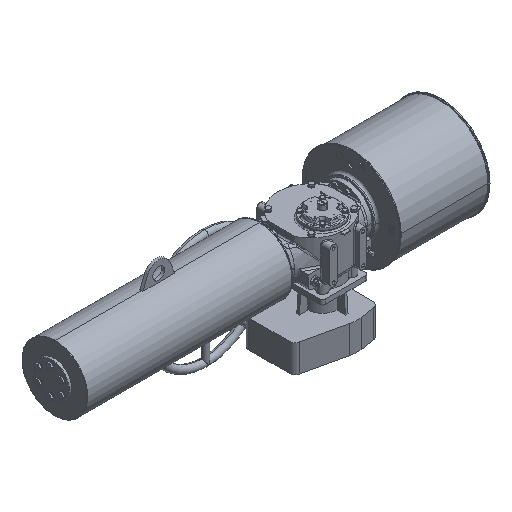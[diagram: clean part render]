
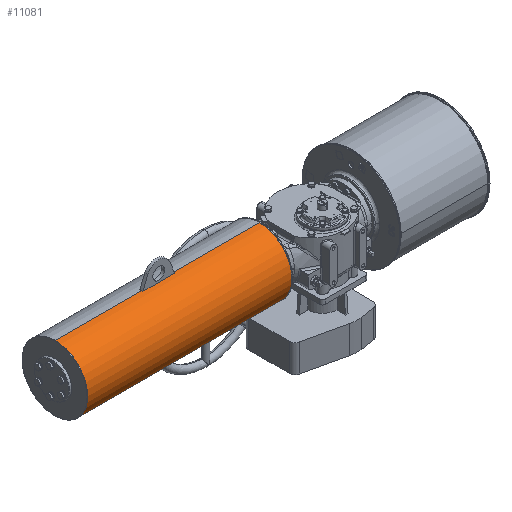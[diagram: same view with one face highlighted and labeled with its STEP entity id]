
A CAD part, isometric view. The second image highlights one B-rep face of the part: STEP entity #11081.
In plain terms, the highlighted cylindrical face has radius 109.5 mm (diameter 219 mm), a partial arc.
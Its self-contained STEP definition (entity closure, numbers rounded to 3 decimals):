
#784 = DIRECTION ( 'NONE',  ( 0., 0., -1. ) ) ;
#865 = CARTESIAN_POINT ( 'NONE',  ( -153., -87., 57.5 ) ) ;
#1980 = CARTESIAN_POINT ( 'NONE',  ( -153., 22.5, -52. ) ) ;
#3258 = ORIENTED_EDGE ( 'NONE', *, *, #36040, .T. ) ;
#4721 = VERTEX_POINT ( 'NONE', #90279 ) ;
#5178 = AXIS2_PLACEMENT_3D ( 'NONE', #90155, #5214, #48638 ) ;
#5214 = DIRECTION ( 'NONE',  ( 1., 0., 0. ) ) ;
#5615 = DIRECTION ( 'NONE',  ( 0., 0., -1. ) ) ;
#6520 = CARTESIAN_POINT ( 'NONE',  ( -839.5, 22.5, 57.5 ) ) ;
#7613 = AXIS2_PLACEMENT_3D ( 'NONE', #31940, #68389, #69311 ) ;
#7728 = DIRECTION ( 'NONE',  ( 0., -1., 0. ) ) ;
#8426 = VERTEX_POINT ( 'NONE', #63504 ) ;
#10912 = CARTESIAN_POINT ( 'NONE',  ( -843., 22.5, -52. ) ) ;
#11081 = ADVANCED_FACE ( 'NONE', ( #76715 ), #28219, .T. ) ;
#11291 = CARTESIAN_POINT ( 'NONE',  ( -839.5, 22.5, -52. ) ) ;
#12360 = EDGE_CURVE ( 'NONE', #28159, #90328, #49082, .T. ) ;
#13756 = AXIS2_PLACEMENT_3D ( 'NONE', #87856, #17669, #19929 ) ;
#15835 = ORIENTED_EDGE ( 'NONE', *, *, #45216, .T. ) ;
#15928 = DIRECTION ( 'NONE',  ( 1., 0., 0. ) ) ;
#17494 = AXIS2_PLACEMENT_3D ( 'NONE', #6520, #27760, #5615 ) ;
#17669 = DIRECTION ( 'NONE',  ( -1., 0., 0. ) ) ;
#17803 = CIRCLE ( 'NONE', #62056, 109.5 ) ;
#18516 = EDGE_CURVE ( 'NONE', #74802, #90328, #17803, .T. ) ;
#19671 = CIRCLE ( 'NONE', #13756, 109.5 ) ;
#19929 = DIRECTION ( 'NONE',  ( 0., 1., 0. ) ) ;
#20507 = VECTOR ( 'NONE', #38590, 1000. ) ;
#21425 = CARTESIAN_POINT ( 'NONE',  ( -552., 17.5, 166.886 ) ) ;
#22845 = LINE ( 'NONE', #31151, #60405 ) ;
#24684 = LINE ( 'NONE', #11291, #20507 ) ;
#25435 = ORIENTED_EDGE ( 'NONE', *, *, #12360, .F. ) ;
#26040 = CARTESIAN_POINT ( 'NONE',  ( -444., 22.5, 167. ) ) ;
#26430 = CARTESIAN_POINT ( 'NONE',  ( -552., 22.5, 167. ) ) ;
#27760 = DIRECTION ( 'NONE',  ( 1., 0., 0. ) ) ;
#28159 = VERTEX_POINT ( 'NONE', #26040 ) ;
#28219 = CYLINDRICAL_SURFACE ( 'NONE', #17494, 109.5 ) ;
#28489 = VECTOR ( 'NONE', #74651, 1000. ) ;
#30537 = CARTESIAN_POINT ( 'NONE',  ( -153., 22.5, 167. ) ) ;
#31083 = DIRECTION ( 'NONE',  ( 0., 0., -1. ) ) ;
#31151 = CARTESIAN_POINT ( 'NONE',  ( -839.5, 22.5, 167. ) ) ;
#31940 = CARTESIAN_POINT ( 'NONE',  ( -843., 22.5, 57.5 ) ) ;
#33182 = CIRCLE ( 'NONE', #5178, 109.5 ) ;
#34177 = CIRCLE ( 'NONE', #7613, 109.5 ) ;
#34835 = AXIS2_PLACEMENT_3D ( 'NONE', #54507, #54970, #7728 ) ;
#35892 = DIRECTION ( 'NONE',  ( -1., 0., 0. ) ) ;
#36040 = EDGE_CURVE ( 'NONE', #28159, #4721, #62827, .T. ) ;
#36684 = CIRCLE ( 'NONE', #82407, 109.5 ) ;
#38590 = DIRECTION ( 'NONE',  ( 1., 0., 0. ) ) ;
#41920 = EDGE_LOOP ( 'NONE', ( #76872, #63558, #44338, #15835, #65785, #47139, #25435, #3258, #84333, #42789 ) ) ;
#42789 = ORIENTED_EDGE ( 'NONE', *, *, #76070, .T. ) ;
#42874 = VERTEX_POINT ( 'NONE', #10912 ) ;
#44338 = ORIENTED_EDGE ( 'NONE', *, *, #79050, .T. ) ;
#45216 = EDGE_CURVE ( 'NONE', #42874, #67545, #24684, .T. ) ;
#46762 = EDGE_CURVE ( 'NONE', #67545, #74802, #36684, .T. ) ;
#47139 = ORIENTED_EDGE ( 'NONE', *, *, #18516, .T. ) ;
#47270 = VERTEX_POINT ( 'NONE', #26430 ) ;
#47890 = CARTESIAN_POINT ( 'NONE',  ( -839.5, 17.5, 166.886 ) ) ;
#48638 = DIRECTION ( 'NONE',  ( 0., 0., -1. ) ) ;
#49082 = LINE ( 'NONE', #77212, #55974 ) ;
#51162 = EDGE_CURVE ( 'NONE', #84482, #47270, #22845, .T. ) ;
#53246 = CARTESIAN_POINT ( 'NONE',  ( -153., 22.5, 57.5 ) ) ;
#54486 = EDGE_CURVE ( 'NONE', #84482, #8426, #34177, .T. ) ;
#54507 = CARTESIAN_POINT ( 'NONE',  ( -444., 22.5, 57.5 ) ) ;
#54970 = DIRECTION ( 'NONE',  ( 1., 0., 0. ) ) ;
#55974 = VECTOR ( 'NONE', #77654, 1000. ) ;
#56816 = EDGE_CURVE ( 'NONE', #64251, #4721, #82962, .T. ) ;
#58673 = CARTESIAN_POINT ( 'NONE',  ( -843., 22.5, 167. ) ) ;
#58780 = DIRECTION ( 'NONE',  ( -1., 0., 0. ) ) ;
#60405 = VECTOR ( 'NONE', #15928, 1000. ) ;
#62056 = AXIS2_PLACEMENT_3D ( 'NONE', #53246, #58780, #31083 ) ;
#62827 = CIRCLE ( 'NONE', #34835, 109.5 ) ;
#63504 = CARTESIAN_POINT ( 'NONE',  ( -843., -87., 57.5 ) ) ;
#63558 = ORIENTED_EDGE ( 'NONE', *, *, #54486, .T. ) ;
#64251 = VERTEX_POINT ( 'NONE', #21425 ) ;
#65785 = ORIENTED_EDGE ( 'NONE', *, *, #46762, .T. ) ;
#67545 = VERTEX_POINT ( 'NONE', #1980 ) ;
#68389 = DIRECTION ( 'NONE',  ( 1., 0., 0. ) ) ;
#69311 = DIRECTION ( 'NONE',  ( 0., 0., -1. ) ) ;
#71422 = CARTESIAN_POINT ( 'NONE',  ( -153., 22.5, 57.5 ) ) ;
#74651 = DIRECTION ( 'NONE',  ( 1., 0., 0. ) ) ;
#74802 = VERTEX_POINT ( 'NONE', #865 ) ;
#76070 = EDGE_CURVE ( 'NONE', #64251, #47270, #19671, .T. ) ;
#76715 = FACE_OUTER_BOUND ( 'NONE', #41920, .T. ) ;
#76872 = ORIENTED_EDGE ( 'NONE', *, *, #51162, .F. ) ;
#77212 = CARTESIAN_POINT ( 'NONE',  ( -839.5, 22.5, 167. ) ) ;
#77654 = DIRECTION ( 'NONE',  ( 1., 0., 0. ) ) ;
#79050 = EDGE_CURVE ( 'NONE', #8426, #42874, #33182, .T. ) ;
#82407 = AXIS2_PLACEMENT_3D ( 'NONE', #71422, #35892, #784 ) ;
#82962 = LINE ( 'NONE', #47890, #28489 ) ;
#84333 = ORIENTED_EDGE ( 'NONE', *, *, #56816, .F. ) ;
#84482 = VERTEX_POINT ( 'NONE', #58673 ) ;
#87856 = CARTESIAN_POINT ( 'NONE',  ( -552., 22.5, 57.5 ) ) ;
#90155 = CARTESIAN_POINT ( 'NONE',  ( -843., 22.5, 57.5 ) ) ;
#90279 = CARTESIAN_POINT ( 'NONE',  ( -444., 17.5, 166.886 ) ) ;
#90328 = VERTEX_POINT ( 'NONE', #30537 ) ;
